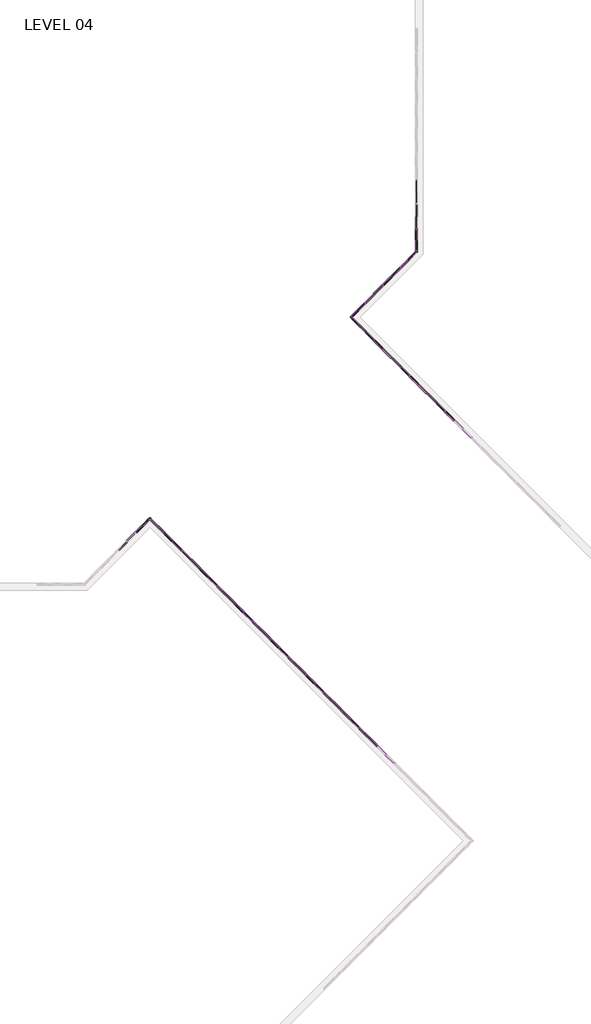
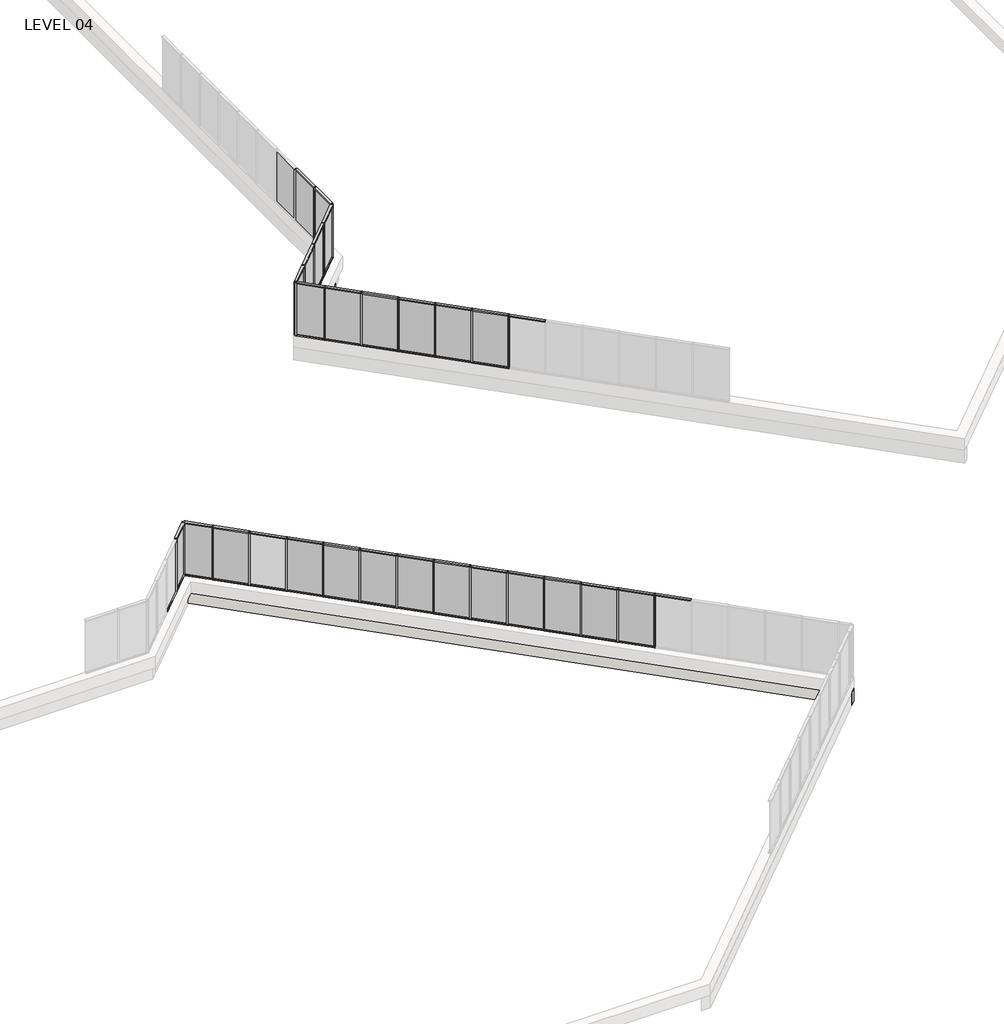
# One storey, part 9 of 17: 84 members, 26 plates, 2 walls.
"""IFC4 building model written with IfcOpenShell, lengths in millimetres."""

from ifc_helpers import new_model, si_unit, frame, origin, place, context, project, spatial, polyline, outline, extrude, faceted_brep, transform, mapped, element, save
from components import member_5247f267, member_e44af9ab, member_800970d4, member_910c08c9, member_dd9f6d43, member_45eb7f2e, plate_67294edd, plate_88df3e37, plate_c3b8b83d, plate_6ecefdb5, plate_9c66726c, plate_129ab9d0

model = new_model("IFC4")

# Units and contexts
model_context = context("Model", 3, world=origin())
ifc_project = project(units=[si_unit("LENGTHUNIT", "METRE", prefix="MILLI")], contexts=[model_context])

# Site, building, storey
site = spatial("IfcSite", under=ifc_project)
building = spatial("IfcBuilding", under=site)
storey = spatial("IfcBuildingStorey", under=building, Name="LEVEL 04", Elevation=12052.3)

# Members
placement = place(None, origin())
member_shape = member_5247f267(model_context)
element("IfcMember", 1, ObjectType="Rectangular Mullion : 2\" x 4.5\" rectangular", at=placement, inside=storey, context=model_context, shape_type="MappedRepresentation", body=[
    mapped(member_shape, transform((58839.186821, 16282.6021867, 12052.3), x_axis=(0.0, 0.0, -1.0), y_axis=(0.707106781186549, 0.7071067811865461, 0.0), z_axis=(0.707106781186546, -0.7071067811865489, 0.0))),
])
element("IfcMember", 2, ObjectType="Rectangular Mullion : 2\" x 4.5\" rectangular", at=placement, inside=storey, context=model_context, shape_type="MappedRepresentation", body=[
    mapped(member_shape, transform((57761.5560865, 17360.2329212, 12052.3), x_axis=(0.0, 0.0, -1.0), y_axis=(0.707106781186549, 0.7071067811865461, 0.0), z_axis=(0.7071067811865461, -0.707106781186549, 0.0))),
])
element("IfcMember", 3, ObjectType="Rectangular Mullion : 2\" x 4.5\" rectangular", at=placement, inside=storey, context=model_context, shape_type="MappedRepresentation", body=[
    mapped(member_shape, transform((56683.925352, 18437.8636558, 12052.3), x_axis=(0.0, 0.0, -1.0), y_axis=(0.707106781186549, 0.7071067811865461, 0.0), z_axis=(0.707106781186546, -0.7071067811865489, 0.0))),
])
element("IfcMember", 4, ObjectType="Rectangular Mullion : 2\" x 4.5\" rectangular", at=placement, inside=storey, context=model_context, shape_type="MappedRepresentation", body=[
    mapped(member_shape, transform((53451.3904937, 21670.3985141, 12052.3), x_axis=(0.0, 0.0, -1.0), y_axis=(0.7071067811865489, 0.7071067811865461, 0.0), z_axis=(0.7071067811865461, -0.7071067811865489, 0.0))),
])
element("IfcMember", 5, ObjectType="Rectangular Mullion : 2\" x 4.5\" rectangular", at=placement, inside=storey, context=model_context, shape_type="MappedRepresentation", body=[
    mapped(member_shape, transform((52373.7597592, 22748.0292486, 12052.3), x_axis=(0.0, 0.0, -1.0), y_axis=(0.7071067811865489, 0.7071067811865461, 0.0), z_axis=(0.7071067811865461, -0.7071067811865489, 0.0))),
])
element("IfcMember", 6, ObjectType="Rectangular Mullion : 2\" x 4.5\" rectangular", at=placement, inside=storey, context=model_context, shape_type="MappedRepresentation", body=[
    mapped(member_shape, transform((51296.1290246, 23825.6599831, 12052.3), x_axis=(0.0, 0.0, -1.0), y_axis=(0.707106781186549, 0.7071067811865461, 0.0), z_axis=(0.707106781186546, -0.7071067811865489, 0.0))),
])
element("IfcMember", 7, ObjectType="Rectangular Mullion : 2\" x 4.5\" rectangular", at=placement, inside=storey, context=model_context, shape_type="MappedRepresentation", body=[
    mapped(member_shape, transform((50218.4982901, 24903.2907176, 12052.3), x_axis=(0.0, 0.0, -1.0), y_axis=(0.707106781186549, 0.7071067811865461, 0.0), z_axis=(0.707106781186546, -0.7071067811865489, 0.0))),
])
element("IfcMember", 8, ObjectType="Rectangular Mullion : 2\" x 4.5\" rectangular", at=placement, inside=storey, context=model_context, shape_type="MappedRepresentation", body=[
    mapped(member_shape, transform((49140.8675556, 25980.9214522, 12052.3), x_axis=(0.0, 0.0, -1.0), y_axis=(0.707106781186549, 0.7071067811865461, 0.0), z_axis=(0.7071067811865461, -0.707106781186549, 0.0))),
])
element("IfcMember", 9, ObjectType="Rectangular Mullion : 2\" x 4.5\" rectangular", at=placement, inside=storey, context=model_context, shape_type="MappedRepresentation", body=[
    mapped(member_shape, transform((48063.236821, 27058.5521867, 12052.3), x_axis=(0.0, 0.0, -1.0), y_axis=(0.7071067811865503, 0.7071067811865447, 0.0), z_axis=(0.7071067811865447, -0.7071067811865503, 0.0))),
])
element("IfcMember", 10, ObjectType="Rectangular Mullion : 2\" x 4.5\" rectangular", at=placement, inside=storey, context=model_context, shape_type="MappedRepresentation", body=[
    mapped(member_shape, transform((46985.6060865, 28136.1829212, 12052.3), x_axis=(0.0, 0.0, -1.0), y_axis=(0.7071067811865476, 0.7071067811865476, 0.0), z_axis=(0.7071067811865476, -0.7071067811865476, 0.0))),
])
element("IfcMember", 11, ObjectType="Rectangular Mullion : 2\" x 4.5\" rectangular", at=placement, inside=storey, context=model_context, shape_type="MappedRepresentation", body=[
    mapped(member_shape, transform((44188.0075145, 29177.8965222, 12052.3), x_axis=(0.0, 0.0, -1.0), y_axis=(-0.7071067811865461, 0.7071067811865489, 0.0), z_axis=(0.7071067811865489, 0.7071067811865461, 0.0))),
])
element("IfcMember", 12, ObjectType="Rectangular Mullion : 2\" x 4.5\" rectangular", at=placement, inside=storey, context=model_context, shape_type="MappedRepresentation", body=[
    mapped(member_shape, transform((58875.1078455, 16246.6811622, 14643.1), x_axis=(0.0, 0.0, 1.0), y_axis=(0.707106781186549, 0.7071067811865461, 0.0), z_axis=(-0.707106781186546, 0.7071067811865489, 0.0))),
])
element("IfcMember", 13, ObjectType="Rectangular Mullion : 2\" x 4.5\" rectangular", at=placement, inside=storey, context=model_context, shape_type="MappedRepresentation", body=[
    mapped(member_shape, transform((57797.477111, 17324.3118967, 14643.1), x_axis=(0.0, 0.0, 1.0), y_axis=(0.707106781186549, 0.7071067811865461, 0.0), z_axis=(-0.707106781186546, 0.7071067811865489, 0.0))),
])
element("IfcMember", 14, ObjectType="Rectangular Mullion : 2\" x 4.5\" rectangular", at=placement, inside=storey, context=model_context, shape_type="MappedRepresentation", body=[
    mapped(member_shape, transform((56719.8463765, 18401.9426313, 14643.1), x_axis=(0.0, 0.0, 1.0), y_axis=(0.7071067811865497, 0.7071067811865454, 0.0), z_axis=(-0.7071067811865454, 0.7071067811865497, 0.0))),
])
element("IfcMember", 15, ObjectType="Rectangular Mullion : 2\" x 4.5\" rectangular", at=placement, inside=storey, context=model_context, shape_type="MappedRepresentation", body=[
    mapped(member_shape, transform((55642.2156419, 19479.5733658, 14643.1), x_axis=(0.0, 0.0, 1.0), y_axis=(0.7071067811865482, 0.7071067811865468, 0.0), z_axis=(-0.7071067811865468, 0.7071067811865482, 0.0))),
])
element("IfcMember", 16, ObjectType="Rectangular Mullion : 2\" x 4.5\" rectangular", at=placement, inside=storey, context=model_context, shape_type="MappedRepresentation", body=[
    mapped(member_shape, transform((52409.6807836, 22712.1082241, 14643.1), x_axis=(0.0, 0.0, 1.0), y_axis=(0.7071067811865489, 0.7071067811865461, 0.0), z_axis=(-0.7071067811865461, 0.7071067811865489, 0.0))),
])
element("IfcMember", 17, ObjectType="Rectangular Mullion : 2\" x 4.5\" rectangular", at=placement, inside=storey, context=model_context, shape_type="MappedRepresentation", body=[
    mapped(member_shape, transform((51332.0500491, 23789.7389586, 14643.1), x_axis=(0.0, 0.0, 1.0), y_axis=(0.7071067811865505, 0.7071067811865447, 0.0), z_axis=(-0.7071067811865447, 0.7071067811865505, 0.0))),
])
element("IfcMember", 18, ObjectType="Rectangular Mullion : 2\" x 4.5\" rectangular", at=placement, inside=storey, context=model_context, shape_type="MappedRepresentation", body=[
    mapped(member_shape, transform((50254.4193146, 24867.3696932, 14643.1), x_axis=(0.0, 0.0, 1.0), y_axis=(0.7071067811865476, 0.7071067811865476, 0.0), z_axis=(-0.7071067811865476, 0.7071067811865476, 0.0))),
])
element("IfcMember", 19, ObjectType="Rectangular Mullion : 2\" x 4.5\" rectangular", at=placement, inside=storey, context=model_context, shape_type="MappedRepresentation", body=[
    mapped(member_shape, transform((49176.7885801, 25945.0004277, 14643.1), x_axis=(0.0, 0.0, 1.0), y_axis=(0.707106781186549, 0.7071067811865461, 0.0), z_axis=(-0.707106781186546, 0.7071067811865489, 0.0))),
])
element("IfcMember", 20, ObjectType="Rectangular Mullion : 2\" x 4.5\" rectangular", at=placement, inside=storey, context=model_context, shape_type="MappedRepresentation", body=[
    mapped(member_shape, transform((48099.1578455, 27022.6311622, 14643.1), x_axis=(0.0, 0.0, 1.0), y_axis=(0.707106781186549, 0.7071067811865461, 0.0), z_axis=(-0.7071067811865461, 0.707106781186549, 0.0))),
])
element("IfcMember", 21, ObjectType="Rectangular Mullion : 2\" x 4.5\" rectangular", at=placement, inside=storey, context=model_context, shape_type="MappedRepresentation", body=[
    mapped(member_shape, transform((47021.527111, 28100.2618967, 14643.1), x_axis=(0.0, 0.0, 1.0), y_axis=(0.7071067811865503, 0.7071067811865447, 0.0), z_axis=(-0.7071067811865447, 0.7071067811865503, 0.0))),
])
element("IfcMember", 22, ObjectType="Rectangular Mullion : 2\" x 4.5\" rectangular", at=placement, inside=storey, context=model_context, shape_type="MappedRepresentation", body=[
    mapped(member_shape, transform((45943.8963765, 29177.8926313, 14643.1), x_axis=(0.0, 0.0, 1.0), y_axis=(0.7071067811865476, 0.7071067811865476, 0.0), z_axis=(-0.7071067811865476, 0.7071067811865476, 0.0))),
])
member_2_shape = member_e44af9ab(model_context)
element("IfcMember", 23, ObjectType="Rectangular Mullion : 2\" x 4.5\" rectangular", at=placement, inside=storey, context=model_context, shape_type="MappedRepresentation", body=[
    mapped(member_2_shape, transform((58857.1473333, 16264.6416745, 12052.3), x_axis=(-0.7071067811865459, 0.7071067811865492, 0.0), y_axis=(0.7071067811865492, 0.7071067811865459, 0.0), z_axis=(0.0, 0.0, -1.0))),
])
element("IfcMember", 24, ObjectType="Rectangular Mullion : 2\" x 4.5\" rectangular", at=placement, inside=storey, context=model_context, shape_type="MappedRepresentation", body=[
    mapped(member_2_shape, transform((57779.5165988, 17342.272409, 12052.3), x_axis=(-0.7071067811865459, 0.7071067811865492, 0.0), y_axis=(0.7071067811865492, 0.7071067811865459, 0.0), z_axis=(0.0, 0.0, -1.0))),
])
element("IfcMember", 25, ObjectType="Rectangular Mullion : 2\" x 4.5\" rectangular", at=placement, inside=storey, context=model_context, shape_type="MappedRepresentation", body=[
    mapped(member_2_shape, transform((56701.8858642, 18419.9031435, 12052.3), x_axis=(-0.7071067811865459, 0.7071067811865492, 0.0), y_axis=(0.7071067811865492, 0.7071067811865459, 0.0), z_axis=(0.0, 0.0, -1.0))),
])
element("IfcMember", 26, ObjectType="Rectangular Mullion : 2\" x 4.5\" rectangular", at=placement, inside=storey, context=model_context, shape_type="MappedRepresentation", body=[
    mapped(member_2_shape, transform((55624.2551297, 19497.533878, 12052.3), x_axis=(-0.7071067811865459, 0.7071067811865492, 0.0), y_axis=(0.7071067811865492, 0.7071067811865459, 0.0), z_axis=(0.0, 0.0, -1.0))),
])
element("IfcMember", 27, ObjectType="Rectangular Mullion : 2\" x 4.5\" rectangular", at=placement, inside=storey, context=model_context, shape_type="MappedRepresentation", body=[
    mapped(member_2_shape, transform((53469.3510059, 21652.4380018, 12052.3), x_axis=(-0.7071067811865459, 0.7071067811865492, 0.0), y_axis=(0.7071067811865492, 0.7071067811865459, 0.0), z_axis=(0.0, 0.0, -1.0))),
])
element("IfcMember", 28, ObjectType="Rectangular Mullion : 2\" x 4.5\" rectangular", at=placement, inside=storey, context=model_context, shape_type="MappedRepresentation", body=[
    mapped(member_2_shape, transform((52391.7202714, 22730.0687363, 12052.3), x_axis=(-0.7071067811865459, 0.7071067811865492, 0.0), y_axis=(0.7071067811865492, 0.7071067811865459, 0.0), z_axis=(0.0, 0.0, -1.0))),
])
element("IfcMember", 29, ObjectType="Rectangular Mullion : 2\" x 4.5\" rectangular", at=placement, inside=storey, context=model_context, shape_type="MappedRepresentation", body=[
    mapped(member_2_shape, transform((51314.0895369, 23807.6994709, 12052.3), x_axis=(-0.7071067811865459, 0.7071067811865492, 0.0), y_axis=(0.7071067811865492, 0.7071067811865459, 0.0), z_axis=(0.0, 0.0, -1.0))),
])
element("IfcMember", 30, ObjectType="Rectangular Mullion : 2\" x 4.5\" rectangular", at=placement, inside=storey, context=model_context, shape_type="MappedRepresentation", body=[
    mapped(member_2_shape, transform((54546.8030678, 20574.9859399, 12052.3), x_axis=(-0.7071067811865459, 0.7071067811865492, 0.0), y_axis=(0.7071067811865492, 0.7071067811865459, 0.0), z_axis=(0.0, 0.0, -1.0))),
])
element("IfcMember", 31, ObjectType="Rectangular Mullion : 2\" x 4.5\" rectangular", at=placement, inside=storey, context=model_context, shape_type="MappedRepresentation", body=[
    mapped(member_2_shape, transform((50236.4588023, 24885.3302054, 12052.3), x_axis=(-0.7071067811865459, 0.7071067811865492, 0.0), y_axis=(0.7071067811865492, 0.7071067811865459, 0.0), z_axis=(0.0, 0.0, -1.0))),
])
element("IfcMember", 32, ObjectType="Rectangular Mullion : 2\" x 4.5\" rectangular", at=placement, inside=storey, context=model_context, shape_type="MappedRepresentation", body=[
    mapped(member_2_shape, transform((49158.8280678, 25962.9609399, 12052.3), x_axis=(-0.7071067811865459, 0.7071067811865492, 0.0), y_axis=(0.7071067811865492, 0.7071067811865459, 0.0), z_axis=(0.0, 0.0, -1.0))),
])
element("IfcMember", 33, ObjectType="Rectangular Mullion : 2\" x 4.5\" rectangular", at=placement, inside=storey, context=model_context, shape_type="MappedRepresentation", body=[
    mapped(member_2_shape, transform((48081.1973333, 27040.5916745, 12052.3), x_axis=(-0.7071067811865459, 0.7071067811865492, 0.0), y_axis=(0.7071067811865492, 0.7071067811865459, 0.0), z_axis=(0.0, 0.0, -1.0))),
])
element("IfcMember", 34, ObjectType="Rectangular Mullion : 2\" x 4.5\" rectangular", at=placement, inside=storey, context=model_context, shape_type="MappedRepresentation", body=[
    mapped(member_2_shape, transform((47003.5665988, 28118.222409, 12052.3), x_axis=(-0.7071067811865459, 0.7071067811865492, 0.0), y_axis=(0.7071067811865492, 0.7071067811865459, 0.0), z_axis=(0.0, 0.0, -1.0))),
])
element("IfcMember", 35, ObjectType="Rectangular Mullion : 2\" x 4.5\" rectangular", at=placement, inside=storey, context=model_context, shape_type="MappedRepresentation", body=[
    mapped(member_2_shape, transform((45925.9358642, 29195.8531435, 12052.3), x_axis=(-0.7071067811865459, 0.7071067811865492, 0.0), y_axis=(0.7071067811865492, 0.7071067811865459, 0.0), z_axis=(0.0, 0.0, -1.0))),
])
element("IfcMember", 36, ObjectType="Rectangular Mullion : 2\" x 4.5\" rectangular", at=placement, inside=storey, context=model_context, shape_type="MappedRepresentation", body=[
    mapped(member_2_shape, transform((44205.9680267, 29195.8570344, 12052.3), x_axis=(-0.7071067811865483, -0.7071067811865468, 0.0), y_axis=(-0.7071067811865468, 0.7071067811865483, 0.0), z_axis=(0.0, 0.0, -1.0))),
])
member_3_shape = member_800970d4(model_context)
element("IfcMember", 37, ObjectType="Rectangular Mullion : 2\" x 4.5\" rectangular", at=placement, inside=storey, context=model_context, shape_type="MappedRepresentation", body=[
    mapped(member_3_shape, transform((45065.95, 30055.8390077, 12052.3), x_axis=(-0.7071067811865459, 0.7071067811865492, 0.0), y_axis=(0.7071067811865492, 0.7071067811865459, 0.0), z_axis=(0.0, 0.0, -1.0))),
])
element("IfcMember", 38, ObjectType="Rectangular Mullion : 2\" x 4.5\" rectangular", at=placement, inside=storey, context=model_context, shape_type="MappedRepresentation", body=[
    mapped(member_3_shape, transform((45065.95, 30055.8390077, 14643.1), x_axis=(0.7071067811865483, 0.7071067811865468, 0.0), y_axis=(-0.7071067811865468, 0.7071067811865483, 0.0), z_axis=(0.0, 0.0, 1.0))),
])
member_4_shape = member_910c08c9(model_context)
element("IfcMember", 39, ObjectType="Rectangular Mullion : 2\" x 4.5\" rectangular", at=placement, inside=storey, context=model_context, shape_type="MappedRepresentation", body=[
    mapped(member_4_shape, transform((53487.3115182, 21634.4774896, 14643.1), x_axis=(0.0, 0.0, 1.0), y_axis=(0.707106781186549, 0.7071067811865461, 0.0), z_axis=(-0.7071067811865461, 0.707106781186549, 0.0))),
])
element("IfcMember", 40, ObjectType="Rectangular Mullion : 2\" x 4.5\" rectangular", at=placement, inside=storey, context=model_context, shape_type="MappedRepresentation", body=[
    mapped(member_4_shape, transform((54564.7635801, 20557.0254277, 14643.1), x_axis=(0.0, 0.0, 1.0), y_axis=(0.7071067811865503, 0.7071067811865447, 0.0), z_axis=(-0.7071067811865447, 0.7071067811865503, 0.0))),
])
element("IfcMember", 41, ObjectType="Rectangular Mullion : 2\" x 4.5\" rectangular", at=placement, inside=storey, context=model_context, shape_type="MappedRepresentation", body=[
    mapped(member_4_shape, transform((55606.2946175, 19515.4943903, 12052.3), x_axis=(0.0, 0.0, -1.0), y_axis=(0.7071067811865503, 0.7071067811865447, 0.0), z_axis=(0.7071067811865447, -0.7071067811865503, 0.0))),
])
element("IfcMember", 42, ObjectType="Rectangular Mullion : 2\" x 4.5\" rectangular", at=placement, inside=storey, context=model_context, shape_type="MappedRepresentation", body=[
    mapped(member_4_shape, transform((54528.8425556, 20592.9464522, 12052.3), x_axis=(0.0, 0.0, -1.0), y_axis=(0.707106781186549, 0.7071067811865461, 0.0), z_axis=(0.7071067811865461, -0.707106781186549, 0.0))),
])
member_5_shape = member_dd9f6d43(model_context)
element("IfcMember", 43, ObjectType="Rectangular Mullion : 2\" x 4.5\" rectangular", at=placement, inside=storey, context=model_context, shape_type="MappedRepresentation", body=[
    mapped(member_5_shape, transform((45101.8710245, 30019.9179833, 14643.1), x_axis=(0.0, 0.0, 1.0), y_axis=(0.7071067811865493, 0.7071067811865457, 0.0), z_axis=(-0.7071067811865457, 0.7071067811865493, 0.0))),
])
element("IfcMember", 44, ObjectType="Rectangular Mullion : 2\" x 4.5\" rectangular", at=placement, inside=storey, context=model_context, shape_type="MappedRepresentation", body=[
    mapped(member_5_shape, transform((44223.9285389, 29213.8175467, 14643.1), x_axis=(0.0, 0.0, 1.0), y_axis=(-0.7071067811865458, 0.7071067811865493, 0.0), z_axis=(-0.7071067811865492, -0.7071067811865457, 0.0))),
])
element("IfcMember", 45, ObjectType="Rectangular Mullion : 2\" x 4.5\" rectangular", at=placement, inside=storey, context=model_context, shape_type="MappedRepresentation", body=[
    mapped(member_5_shape, transform((45907.975352, 29213.8136558, 12052.3), x_axis=(0.0, 0.0, -1.0), y_axis=(0.7071067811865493, 0.7071067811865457, 0.0), z_axis=(0.7071067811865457, -0.7071067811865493, 0.0))),
])
element("IfcMember", 46, ObjectType="Rectangular Mullion : 2\" x 4.5\" rectangular", at=placement, inside=storey, context=model_context, shape_type="MappedRepresentation", body=[
    mapped(member_5_shape, transform((45030.0289755, 30019.9179833, 12052.3), x_axis=(0.0, 0.0, -1.0), y_axis=(-0.7071067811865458, 0.7071067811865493, 0.0), z_axis=(0.7071067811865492, 0.7071067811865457, 0.0))),
])
element("IfcMember", 47, ObjectType="Rectangular Mullion : 2\" x 4.5\" rectangular", at=placement, inside=storey, context=model_context, shape_type="MappedRepresentation", body=[
    mapped(member_shape, transform((63554.1786299, 36011.8675394, 14643.1), x_axis=(0.0, 0.0, 1.0), y_axis=(0.7071067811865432, 0.7071067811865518, 0.0), z_axis=(-0.7071067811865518, 0.7071067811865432, 0.0))),
])
element("IfcMember", 48, ObjectType="Rectangular Mullion : 2\" x 4.5\" rectangular", at=placement, inside=storey, context=model_context, shape_type="MappedRepresentation", body=[
    mapped(member_shape, transform((62476.5478954, 37089.4982739, 14643.1), x_axis=(0.0, 0.0, 1.0), y_axis=(0.7071067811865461, 0.7071067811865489, 0.0), z_axis=(-0.7071067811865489, 0.7071067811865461, 0.0))),
])
element("IfcMember", 49, ObjectType="Rectangular Mullion : 2\" x 4.5\" rectangular", at=placement, inside=storey, context=model_context, shape_type="MappedRepresentation", body=[
    mapped(member_shape, transform((61398.9171608, 38167.1290085, 14643.1), x_axis=(0.0, 0.0, 1.0), y_axis=(0.7071067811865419, 0.7071067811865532, 0.0), z_axis=(-0.7071067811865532, 0.7071067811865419, 0.0))),
])
element("IfcMember", 50, ObjectType="Rectangular Mullion : 2\" x 4.5\" rectangular", at=placement, inside=storey, context=model_context, shape_type="MappedRepresentation", body=[
    mapped(member_shape, transform((60321.2864263, 39244.759743, 14643.1), x_axis=(0.0, 0.0, 1.0), y_axis=(0.7071067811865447, 0.7071067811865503, 0.0), z_axis=(-0.7071067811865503, 0.7071067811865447, 0.0))),
])
element("IfcMember", 51, ObjectType="Rectangular Mullion : 2\" x 4.5\" rectangular", at=placement, inside=storey, context=model_context, shape_type="MappedRepresentation", body=[
    mapped(member_shape, transform((59243.6556918, 40322.3904775, 14643.1), x_axis=(0.0, 0.0, 1.0), y_axis=(0.7071067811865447, 0.7071067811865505, 0.0), z_axis=(-0.7071067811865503, 0.7071067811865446, 0.0))),
])
element("IfcMember", 52, ObjectType="Rectangular Mullion : 2\" x 4.5\" rectangular", at=placement, inside=storey, context=model_context, shape_type="MappedRepresentation", body=[
    mapped(member_shape, transform((58166.0249572, 41400.021212, 14643.1), x_axis=(0.0, 0.0, 1.0), y_axis=(0.7071067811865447, 0.7071067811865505, 0.0), z_axis=(-0.7071067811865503, 0.7071067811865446, 0.0))),
])
element("IfcMember", 53, ObjectType="Rectangular Mullion : 2\" x 4.5\" rectangular", at=placement, inside=storey, context=model_context, shape_type="MappedRepresentation", body=[
    mapped(member_shape, transform((60285.3615109, 45275.2505186, 14643.1), x_axis=(0.0, 0.0, 1.0), y_axis=(0.7071067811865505, -0.7071067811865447, 0.0), z_axis=(0.7071067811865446, 0.7071067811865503, 0.0))),
])
element("IfcMember", 54, ObjectType="Rectangular Mullion : 2\" x 4.5\" rectangular", at=placement, inside=storey, context=model_context, shape_type="MappedRepresentation", body=[
    mapped(member_shape, transform((59207.7307764, 44197.6197841, 14643.1), x_axis=(0.0, 0.0, 1.0), y_axis=(0.7071067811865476, -0.7071067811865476, 0.0), z_axis=(0.7071067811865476, 0.7071067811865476, 0.0))),
])
element("IfcMember", 55, ObjectType="Rectangular Mullion : 2\" x 4.5\" rectangular", at=placement, inside=storey, context=model_context, shape_type="MappedRepresentation", body=[
    mapped(member_shape, transform((61263.7847164, 47637.3675885, 14643.1), x_axis=(0.0, 0.0, 1.0), y_axis=(-1.0, 0.0, 0.0), z_axis=(0.0, -1.0, 0.0))),
])
element("IfcMember", 56, ObjectType="Rectangular Mullion : 2\" x 4.5\" rectangular", at=placement, inside=storey, context=model_context, shape_type="MappedRepresentation", body=[
    mapped(member_shape, transform((63518.2576054, 36047.7885639, 12052.3), x_axis=(0.0, 0.0, -1.0), y_axis=(0.7071067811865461, 0.7071067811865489, 0.0), z_axis=(0.7071067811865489, -0.7071067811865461, 0.0))),
])
element("IfcMember", 57, ObjectType="Rectangular Mullion : 2\" x 4.5\" rectangular", at=placement, inside=storey, context=model_context, shape_type="MappedRepresentation", body=[
    mapped(member_shape, transform((62440.6268709, 37125.4192984, 12052.3), x_axis=(0.0, 0.0, -1.0), y_axis=(0.7071067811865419, 0.7071067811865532, 0.0), z_axis=(0.7071067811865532, -0.7071067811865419, 0.0))),
])
element("IfcMember", 58, ObjectType="Rectangular Mullion : 2\" x 4.5\" rectangular", at=placement, inside=storey, context=model_context, shape_type="MappedRepresentation", body=[
    mapped(member_shape, transform((61362.9961363, 38203.0500329, 12052.3), x_axis=(0.0, 0.0, -1.0), y_axis=(0.7071067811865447, 0.7071067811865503, 0.0), z_axis=(0.7071067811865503, -0.7071067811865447, 0.0))),
])
element("IfcMember", 59, ObjectType="Rectangular Mullion : 2\" x 4.5\" rectangular", at=placement, inside=storey, context=model_context, shape_type="MappedRepresentation", body=[
    mapped(member_shape, transform((60285.3654018, 39280.6807675, 12052.3), x_axis=(0.0, 0.0, -1.0), y_axis=(0.7071067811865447, 0.7071067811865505, 0.0), z_axis=(0.7071067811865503, -0.7071067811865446, 0.0))),
])
element("IfcMember", 60, ObjectType="Rectangular Mullion : 2\" x 4.5\" rectangular", at=placement, inside=storey, context=model_context, shape_type="MappedRepresentation", body=[
    mapped(member_shape, transform((59207.7346673, 40358.311502, 12052.3), x_axis=(0.0, 0.0, -1.0), y_axis=(0.7071067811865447, 0.7071067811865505, 0.0), z_axis=(0.7071067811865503, -0.7071067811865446, 0.0))),
])
element("IfcMember", 61, ObjectType="Rectangular Mullion : 2\" x 4.5\" rectangular", at=placement, inside=storey, context=model_context, shape_type="MappedRepresentation", body=[
    mapped(member_shape, transform((58166.0210663, 43155.9100741, 12052.3), x_axis=(0.0, 0.0, -1.0), y_axis=(0.7071067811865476, -0.7071067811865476, 0.0), z_axis=(-0.7071067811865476, -0.7071067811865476, 0.0))),
])
element("IfcMember", 62, ObjectType="Rectangular Mullion : 2\" x 4.5\" rectangular", at=placement, inside=storey, context=model_context, shape_type="MappedRepresentation", body=[
    mapped(member_shape, transform((59243.6518008, 44233.5408086, 12052.3), x_axis=(0.0, 0.0, -1.0), y_axis=(0.7071067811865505, -0.7071067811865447, 0.0), z_axis=(-0.7071067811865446, -0.7071067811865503, 0.0))),
])
element("IfcMember", 63, ObjectType="Rectangular Mullion : 2\" x 4.5\" rectangular", at=placement, inside=storey, context=model_context, shape_type="MappedRepresentation", body=[
    mapped(member_2_shape, transform((63536.2181176, 36029.8280517, 12052.3), x_axis=(-0.7071067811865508, 0.7071067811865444, 0.0), y_axis=(0.7071067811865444, 0.7071067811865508, 0.0), z_axis=(0.0, 0.0, -1.0))),
])
element("IfcMember", 64, ObjectType="Rectangular Mullion : 2\" x 4.5\" rectangular", at=placement, inside=storey, context=model_context, shape_type="MappedRepresentation", body=[
    mapped(member_2_shape, transform((62458.5873831, 37107.4587862, 12052.3), x_axis=(-0.7071067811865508, 0.7071067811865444, 0.0), y_axis=(0.7071067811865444, 0.7071067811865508, 0.0), z_axis=(0.0, 0.0, -1.0))),
])
element("IfcMember", 65, ObjectType="Rectangular Mullion : 2\" x 4.5\" rectangular", at=placement, inside=storey, context=model_context, shape_type="MappedRepresentation", body=[
    mapped(member_2_shape, transform((61380.9566486, 38185.0895207, 12052.3), x_axis=(-0.7071067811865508, 0.7071067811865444, 0.0), y_axis=(0.7071067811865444, 0.7071067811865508, 0.0), z_axis=(0.0, 0.0, -1.0))),
])
element("IfcMember", 66, ObjectType="Rectangular Mullion : 2\" x 4.5\" rectangular", at=placement, inside=storey, context=model_context, shape_type="MappedRepresentation", body=[
    mapped(member_2_shape, transform((60303.3259141, 39262.7202552, 12052.3), x_axis=(-0.7071067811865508, 0.7071067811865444, 0.0), y_axis=(0.7071067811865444, 0.7071067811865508, 0.0), z_axis=(0.0, 0.0, -1.0))),
])
element("IfcMember", 67, ObjectType="Rectangular Mullion : 2\" x 4.5\" rectangular", at=placement, inside=storey, context=model_context, shape_type="MappedRepresentation", body=[
    mapped(member_2_shape, transform((59225.6951795, 40340.3509898, 12052.3), x_axis=(-0.7071067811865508, 0.7071067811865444, 0.0), y_axis=(0.7071067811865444, 0.7071067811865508, 0.0), z_axis=(0.0, 0.0, -1.0))),
])
element("IfcMember", 68, ObjectType="Rectangular Mullion : 2\" x 4.5\" rectangular", at=placement, inside=storey, context=model_context, shape_type="MappedRepresentation", body=[
    mapped(member_2_shape, transform((58148.064445, 41417.9817243, 12052.3), x_axis=(-0.7071067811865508, 0.7071067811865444, 0.0), y_axis=(0.7071067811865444, 0.7071067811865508, 0.0), z_axis=(0.0, 0.0, -1.0))),
])
element("IfcMember", 69, ObjectType="Rectangular Mullion : 2\" x 4.5\" rectangular", at=placement, inside=storey, context=model_context, shape_type="MappedRepresentation", body=[
    mapped(member_2_shape, transform((58148.0605541, 43137.9495618, 12052.3), x_axis=(0.7071067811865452, 0.7071067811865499, 0.0), y_axis=(0.7071067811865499, -0.7071067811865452, 0.0), z_axis=(0.0, 0.0, -1.0))),
])
element("IfcMember", 70, ObjectType="Rectangular Mullion : 2\" x 4.5\" rectangular", at=placement, inside=storey, context=model_context, shape_type="MappedRepresentation", body=[
    mapped(member_2_shape, transform((60303.3220231, 45293.2110309, 12052.3), x_axis=(0.7071067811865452, 0.7071067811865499, 0.0), y_axis=(0.7071067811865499, -0.7071067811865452, 0.0), z_axis=(0.0, 0.0, -1.0))),
])
element("IfcMember", 71, ObjectType="Rectangular Mullion : 2\" x 4.5\" rectangular", at=placement, inside=storey, context=model_context, shape_type="MappedRepresentation", body=[
    mapped(member_2_shape, transform((59225.6912886, 44215.5802963, 12052.3), x_axis=(0.7071067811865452, 0.7071067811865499, 0.0), y_axis=(0.7071067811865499, -0.7071067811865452, 0.0), z_axis=(0.0, 0.0, -1.0))),
])
element("IfcMember", 72, ObjectType="Rectangular Mullion : 2\" x 4.5\" rectangular", at=placement, inside=storey, context=model_context, shape_type="MappedRepresentation", body=[
    mapped(member_2_shape, transform((61263.7847164, 47611.9675885, 12052.3), x_axis=(0.0, -1.0, 0.0), y_axis=(-1.0, 0.0, 0.0), z_axis=(0.0, 0.0, -1.0))),
])
element("IfcMember", 73, ObjectType="Rectangular Mullion : 2\" x 4.5\" rectangular", at=placement, inside=storey, context=model_context, shape_type="MappedRepresentation", body=[
    mapped(member_3_shape, transform((57288.0785808, 42277.9675885, 12052.3), x_axis=(-0.7071067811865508, 0.7071067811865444, 0.0), y_axis=(0.7071067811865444, 0.7071067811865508, 0.0), z_axis=(0.0, 0.0, -1.0))),
])
element("IfcMember", 74, ObjectType="Rectangular Mullion : 2\" x 4.5\" rectangular", at=placement, inside=storey, context=model_context, shape_type="MappedRepresentation", body=[
    mapped(member_3_shape, transform((61263.7847164, 46253.6737241, 12052.3), x_axis=(0.7071067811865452, 0.7071067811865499, 0.0), y_axis=(0.7071067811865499, -0.7071067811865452, 0.0), z_axis=(0.0, 0.0, -1.0))),
])
element("IfcMember", 75, ObjectType="Rectangular Mullion : 2\" x 4.5\" rectangular", at=placement, inside=storey, context=model_context, shape_type="MappedRepresentation", body=[
    mapped(member_3_shape, transform((61263.7847164, 46253.6737241, 12052.3), x_axis=(0.0, -1.0, 0.0), y_axis=(-1.0, 0.0, 0.0), z_axis=(0.0, 0.0, -1.0))),
])
element("IfcMember", 76, ObjectType="Rectangular Mullion : 2\" x 4.5\" rectangular", at=placement, inside=storey, context=model_context, shape_type="MappedRepresentation", body=[
    mapped(member_3_shape, transform((57288.0785808, 42277.9675885, 14643.1), x_axis=(-0.7071067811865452, -0.7071067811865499, 0.0), y_axis=(0.7071067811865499, -0.7071067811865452, 0.0), z_axis=(0.0, 0.0, 1.0))),
])
member_6_shape = member_45eb7f2e(model_context)
element("IfcMember", 77, ObjectType="Rectangular Mullion : 2\" x 4.5\" rectangular", at=placement, inside=storey, context=model_context, shape_type="MappedRepresentation", body=[
    mapped(member_6_shape, transform((61227.8636919, 46217.7526997, 14643.1), x_axis=(0.0, 0.0, 1.0), y_axis=(0.7071067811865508, -0.7071067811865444, 0.0), z_axis=(0.7071067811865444, 0.7071067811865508, 0.0))),
])
element("IfcMember", 78, ObjectType="Rectangular Mullion : 2\" x 4.5\" rectangular", at=placement, inside=storey, context=model_context, shape_type="MappedRepresentation", body=[
    mapped(member_6_shape, transform((61263.7847164, 46304.4737241, 14643.1), x_axis=(0.0, 0.0, 1.0), y_axis=(-1.0, 0.0, 0.0), z_axis=(0.0, -1.0, 0.0))),
])
element("IfcMember", 79, ObjectType="Rectangular Mullion : 2\" x 4.5\" rectangular", at=placement, inside=storey, context=model_context, shape_type="MappedRepresentation", body=[
    mapped(member_6_shape, transform((60321.2825354, 45311.1715431, 12052.3), x_axis=(0.0, 0.0, -1.0), y_axis=(0.7071067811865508, -0.7071067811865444, 0.0), z_axis=(-0.7071067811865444, -0.7071067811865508, 0.0))),
])
element("IfcMember", 80, ObjectType="Rectangular Mullion : 2\" x 4.5\" rectangular", at=placement, inside=storey, context=model_context, shape_type="MappedRepresentation", body=[
    mapped(member_6_shape, transform((61263.7847164, 47586.5675885, 12052.3), x_axis=(0.0, 0.0, -1.0), y_axis=(-1.0, 0.0, 0.0), z_axis=(0.0, 1.0, 0.0))),
])
element("IfcMember", 81, ObjectType="Rectangular Mullion : 2\" x 4.5\" rectangular", at=placement, inside=storey, context=model_context, shape_type="MappedRepresentation", body=[
    mapped(member_5_shape, transform((57323.9996053, 42242.046564, 14643.1), x_axis=(0.0, 0.0, 1.0), y_axis=(0.707106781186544, 0.7071067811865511, 0.0), z_axis=(-0.707106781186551, 0.7071067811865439, 0.0))),
])
element("IfcMember", 82, ObjectType="Rectangular Mullion : 2\" x 4.5\" rectangular", at=placement, inside=storey, context=model_context, shape_type="MappedRepresentation", body=[
    mapped(member_5_shape, transform((58130.1000418, 43119.9890496, 14643.1), x_axis=(0.0, 0.0, 1.0), y_axis=(0.7071067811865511, -0.707106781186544, 0.0), z_axis=(0.707106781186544, 0.7071067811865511, 0.0))),
])
element("IfcMember", 83, ObjectType="Rectangular Mullion : 2\" x 4.5\" rectangular", at=placement, inside=storey, context=model_context, shape_type="MappedRepresentation", body=[
    mapped(member_5_shape, transform((58130.1039328, 41435.9422365, 12052.3), x_axis=(0.0, 0.0, -1.0), y_axis=(0.707106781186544, 0.7071067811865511, 0.0), z_axis=(0.707106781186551, -0.7071067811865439, 0.0))),
])
element("IfcMember", 84, ObjectType="Rectangular Mullion : 2\" x 4.5\" rectangular", at=placement, inside=storey, context=model_context, shape_type="MappedRepresentation", body=[
    mapped(member_5_shape, transform((57323.9996053, 42313.888613, 12052.3), x_axis=(0.0, 0.0, -1.0), y_axis=(0.7071067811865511, -0.707106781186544, 0.0), z_axis=(-0.707106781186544, -0.7071067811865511, 0.0))),
])

# Plates
plate_shape = plate_67294edd(model_context)
element("IfcPlate", 85, ObjectType="System Panel : 1/4\" Glass", at=placement, inside=storey, context=model_context, shape_type="MappedRepresentation", body=[
    mapped(plate_shape, transform((58318.331966, 16803.4570417, 12103.1), x_axis=(-0.7071067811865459, 0.7071067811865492, 0.0), y_axis=(-0.7071067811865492, -0.7071067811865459, 0.0), z_axis=(0.0, 0.0, 1.0))),
])
element("IfcPlate", 86, ObjectType="System Panel : 1/4\" Glass", at=placement, inside=storey, context=model_context, shape_type="MappedRepresentation", body=[
    mapped(plate_shape, transform((57240.7012315, 17881.0877763, 12103.1), x_axis=(-0.7071067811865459, 0.7071067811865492, 0.0), y_axis=(-0.7071067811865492, -0.7071067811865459, 0.0), z_axis=(0.0, 0.0, 1.0))),
])
element("IfcPlate", 87, ObjectType="System Panel : 1/4\" Glass", at=placement, inside=storey, context=model_context, shape_type="MappedRepresentation", body=[
    mapped(plate_shape, transform((56163.070497, 18958.7185108, 12103.1), x_axis=(-0.7071067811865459, 0.7071067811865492, 0.0), y_axis=(-0.7071067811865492, -0.7071067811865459, 0.0), z_axis=(0.0, 0.0, 1.0))),
])
element("IfcPlate", 88, ObjectType="System Panel : 1/4\" Glass", at=placement, inside=storey, context=model_context, shape_type="MappedRepresentation", body=[
    mapped(plate_shape, transform((52930.5356387, 22191.2533691, 12103.1), x_axis=(-0.7071067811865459, 0.7071067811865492, 0.0), y_axis=(-0.7071067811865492, -0.7071067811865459, 0.0), z_axis=(0.0, 0.0, 1.0))),
])
element("IfcPlate", 89, ObjectType="System Panel : 1/4\" Glass", at=placement, inside=storey, context=model_context, shape_type="MappedRepresentation", body=[
    mapped(plate_shape, transform((51852.9049041, 23268.8841036, 12103.1), x_axis=(-0.7071067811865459, 0.7071067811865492, 0.0), y_axis=(-0.7071067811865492, -0.7071067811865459, 0.0), z_axis=(0.0, 0.0, 1.0))),
])
element("IfcPlate", 90, ObjectType="System Panel : 1/4\" Glass", at=placement, inside=storey, context=model_context, shape_type="MappedRepresentation", body=[
    mapped(plate_shape, transform((50775.2741696, 24346.5148381, 12103.1), x_axis=(-0.7071067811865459, 0.7071067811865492, 0.0), y_axis=(-0.7071067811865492, -0.7071067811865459, 0.0), z_axis=(0.0, 0.0, 1.0))),
])
element("IfcPlate", 91, ObjectType="System Panel : 1/4\" Glass", at=placement, inside=storey, context=model_context, shape_type="MappedRepresentation", body=[
    mapped(plate_shape, transform((49697.6434351, 25424.1455727, 12103.1), x_axis=(-0.7071067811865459, 0.7071067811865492, 0.0), y_axis=(-0.7071067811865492, -0.7071067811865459, 0.0), z_axis=(0.0, 0.0, 1.0))),
])
element("IfcPlate", 92, ObjectType="System Panel : 1/4\" Glass", at=placement, inside=storey, context=model_context, shape_type="MappedRepresentation", body=[
    mapped(plate_shape, transform((48620.0127005, 26501.7763072, 12103.1), x_axis=(-0.7071067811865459, 0.7071067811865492, 0.0), y_axis=(-0.7071067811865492, -0.7071067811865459, 0.0), z_axis=(0.0, 0.0, 1.0))),
])
element("IfcPlate", 93, ObjectType="System Panel : 1/4\" Glass", at=placement, inside=storey, context=model_context, shape_type="MappedRepresentation", body=[
    mapped(plate_shape, transform((46464.7512315, 28657.0377763, 12103.1), x_axis=(-0.7071067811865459, 0.7071067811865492, 0.0), y_axis=(-0.7071067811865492, -0.7071067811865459, 0.0), z_axis=(0.0, 0.0, 1.0))),
])
plate_2_shape = plate_88df3e37(model_context)
element("IfcPlate", 94, ObjectType="System Panel : 1/4\" Glass", at=placement, inside=storey, context=model_context, shape_type="MappedRepresentation", body=[
    mapped(plate_2_shape, transform((55085.5290988, 20036.259909, 12103.1), x_axis=(-0.7071067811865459, 0.7071067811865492, 0.0), y_axis=(-0.7071067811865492, -0.7071067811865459, 0.0), z_axis=(0.0, 0.0, 1.0))),
])
element("IfcPlate", 95, ObjectType="System Panel : 1/4\" Glass", at=placement, inside=storey, context=model_context, shape_type="MappedRepresentation", body=[
    mapped(plate_2_shape, transform((54008.0770369, 21113.7119709, 12103.1), x_axis=(-0.7071067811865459, 0.7071067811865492, 0.0), y_axis=(-0.7071067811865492, -0.7071067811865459, 0.0), z_axis=(0.0, 0.0, 1.0))),
])
plate_3_shape = plate_c3b8b83d(model_context)
element("IfcPlate", 96, ObjectType="System Panel : 1/4\" Glass", at=placement, inside=storey, context=model_context, shape_type="MappedRepresentation", body=[
    mapped(plate_3_shape, transform((45504.9231882, 29616.8658195, 12103.1), x_axis=(-0.7071067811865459, 0.7071067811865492, 0.0), y_axis=(-0.7071067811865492, -0.7071067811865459, 0.0), z_axis=(0.0, 0.0, 1.0))),
])
plate_4_shape = plate_6ecefdb5(model_context)
element("IfcPlate", 97, ObjectType="System Panel : 1/4\" Glass", at=placement, inside=storey, context=model_context, shape_type="MappedRepresentation", body=[
    mapped(plate_4_shape, transform((44626.9787572, 29616.867765, 12103.1), x_axis=(-0.7071067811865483, -0.7071067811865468, 0.0), y_axis=(0.7071067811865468, -0.7071067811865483, 0.0), z_axis=(0.0, 0.0, 1.0))),
])
element("IfcPlate", 98, ObjectType="System Panel : 1/4\" Glass", at=placement, inside=storey, context=model_context, shape_type="MappedRepresentation", body=[
    mapped(plate_shape, transform((62997.4027504, 36568.6434189, 12103.1), x_axis=(-0.7071067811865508, 0.7071067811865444, 0.0), y_axis=(-0.7071067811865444, -0.7071067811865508, 0.0), z_axis=(0.0, 0.0, 1.0))),
])
element("IfcPlate", 99, ObjectType="System Panel : 1/4\" Glass", at=placement, inside=storey, context=model_context, shape_type="MappedRepresentation", body=[
    mapped(plate_shape, transform((61919.7720159, 37646.2741534, 12103.1), x_axis=(-0.7071067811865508, 0.7071067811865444, 0.0), y_axis=(-0.7071067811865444, -0.7071067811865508, 0.0), z_axis=(0.0, 0.0, 1.0))),
])
element("IfcPlate", 100, ObjectType="System Panel : 1/4\" Glass", at=placement, inside=storey, context=model_context, shape_type="MappedRepresentation", body=[
    mapped(plate_shape, transform((60842.1412813, 38723.904888, 12103.1), x_axis=(-0.7071067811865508, 0.7071067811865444, 0.0), y_axis=(-0.7071067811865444, -0.7071067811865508, 0.0), z_axis=(0.0, 0.0, 1.0))),
])
element("IfcPlate", 101, ObjectType="System Panel : 1/4\" Glass", at=placement, inside=storey, context=model_context, shape_type="MappedRepresentation", body=[
    mapped(plate_shape, transform((59764.5105468, 39801.5356225, 12103.1), x_axis=(-0.7071067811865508, 0.7071067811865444, 0.0), y_axis=(-0.7071067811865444, -0.7071067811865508, 0.0), z_axis=(0.0, 0.0, 1.0))),
])
element("IfcPlate", 102, ObjectType="System Panel : 1/4\" Glass", at=placement, inside=storey, context=model_context, shape_type="MappedRepresentation", body=[
    mapped(plate_shape, transform((58686.8798123, 40879.166357, 12103.1), x_axis=(-0.7071067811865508, 0.7071067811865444, 0.0), y_axis=(-0.7071067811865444, -0.7071067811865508, 0.0), z_axis=(0.0, 0.0, 1.0))),
])
element("IfcPlate", 103, ObjectType="System Panel : 1/4\" Glass", at=placement, inside=storey, context=model_context, shape_type="MappedRepresentation", body=[
    mapped(plate_shape, transform((58686.8759213, 43676.7649291, 12103.1), x_axis=(0.7071067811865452, 0.7071067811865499, 0.0), y_axis=(-0.7071067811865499, 0.7071067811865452, 0.0), z_axis=(0.0, 0.0, 1.0))),
])
element("IfcPlate", 104, ObjectType="System Panel : 1/4\" Glass", at=placement, inside=storey, context=model_context, shape_type="MappedRepresentation", body=[
    mapped(plate_shape, transform((59764.5066559, 44754.3956636, 12103.1), x_axis=(0.7071067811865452, 0.7071067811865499, 0.0), y_axis=(-0.7071067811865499, 0.7071067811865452, 0.0), z_axis=(0.0, 0.0, 1.0))),
])
element("IfcPlate", 105, ObjectType="System Panel : 1/4\" Glass", at=placement, inside=storey, context=model_context, shape_type="MappedRepresentation", body=[
    mapped(plate_shape, transform((61263.7847164, 49897.9675885, 12103.1), x_axis=(0.0, -1.0, 0.0), y_axis=(1.0, 0.0, 0.0), z_axis=(0.0, 0.0, 1.0))),
])
element("IfcPlate", 106, ObjectType="System Panel : 1/4\" Glass", at=placement, inside=storey, context=model_context, shape_type="MappedRepresentation", body=[
    mapped(plate_shape, transform((61263.7847164, 48373.9675885, 12103.1), x_axis=(0.0, -1.0, 0.0), y_axis=(1.0, 0.0, 0.0), z_axis=(0.0, 0.0, 1.0))),
])
plate_5_shape = plate_9c66726c(model_context)
element("IfcPlate", 107, ObjectType="System Panel : 1/4\" Glass", at=placement, inside=storey, context=model_context, shape_type="MappedRepresentation", body=[
    mapped(plate_5_shape, transform((61263.7847164, 46945.5206563, 12103.1), x_axis=(0.0, -1.0, 0.0), y_axis=(1.0, 0.0, 0.0), z_axis=(0.0, 0.0, 1.0))),
])
element("IfcPlate", 108, ObjectType="System Panel : 1/4\" Glass", at=placement, inside=storey, context=model_context, shape_type="MappedRepresentation", body=[
    mapped(plate_4_shape, transform((57727.0498235, 42716.9388313, 12103.1), x_axis=(0.7071067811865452, 0.7071067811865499, 0.0), y_axis=(-0.7071067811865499, 0.7071067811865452, 0.0), z_axis=(0.0, 0.0, 1.0))),
])
plate_6_shape = plate_129ab9d0(model_context)
element("IfcPlate", 109, ObjectType="System Panel : 1/4\" Glass", at=placement, inside=storey, context=model_context, shape_type="MappedRepresentation", body=[
    mapped(plate_6_shape, transform((60774.5731136, 45764.4621214, 12103.1), x_axis=(0.7071067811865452, 0.7071067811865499, 0.0), y_axis=(-0.7071067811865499, 0.7071067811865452, 0.0), z_axis=(0.0, 0.0, 1.0))),
])
element("IfcPlate", 110, ObjectType="System Panel : 1/4\" Glass", at=placement, inside=storey, context=model_context, shape_type="MappedRepresentation", body=[
    mapped(plate_3_shape, transform((57727.051769, 41838.9944003, 12103.1), x_axis=(-0.7071067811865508, 0.7071067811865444, 0.0), y_axis=(-0.7071067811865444, -0.7071067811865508, 0.0), z_axis=(0.0, 0.0, 1.0))),
])

# Walls
element("IfcWall", 111, ObjectType="01-CONCRETE-12", at=placement, inside=storey, context=model_context, shape_type="Brep", body=[
    faceted_brep([(44850.4238531, 29921.1351659, 10871.2), (45065.95, 29705.609019, 10871.2), (64277.5011469, 10494.0578721, 10871.2), (64493.0272938, 10278.5317252, 10871.2), (64493.0272938, 10278.5317252, 11493.5), (64277.5011469, 10494.0578721, 11493.5), (45065.95, 29705.609019, 11493.5), (44850.4238531, 29921.1351659, 11493.5), (45065.95, 30136.6613128, 10871.2), (45065.95, 30136.6613128, 11493.5), (64708.5534407, 10494.0578721, 11493.5), (64708.5534407, 10494.0578721, 10871.2)], [[[0, 1, 2, 3, 4, 5, 6, 7]], [[8, 9, 10, 11]], [[3, 2, 1, 0, 8, 11]], [[7, 6, 5, 4, 10, 9]], [[0, 7, 9, 8]], [[4, 3, 11, 10]]]),
])
element("IfcWall", 112, ObjectType="01-CONCRETE-12", at=placement, inside=storey, context=model_context, shape_type="SweptSolid", body=[
    extrude(outline(polyline([(57422.7824226, 42493.4937354), (61206.6347164, 46277.3460292), (61206.6347164, 45846.2937354), (57638.3085695, 42277.9675885), (57422.7824226, 42493.4937354)])), frame((0.0, 0.0, 10871.2), z_axis=(0.0, 0.0, 1.0), x_axis=(1.0, 0.0, 0.0)), (0.0, 0.0, 1.0), 622.3),
])

save(model, "model.ifc")
